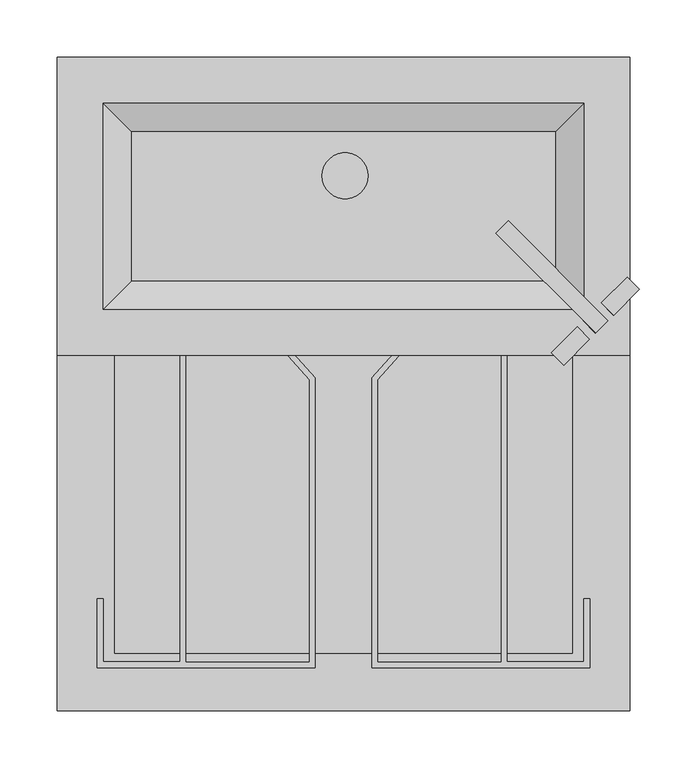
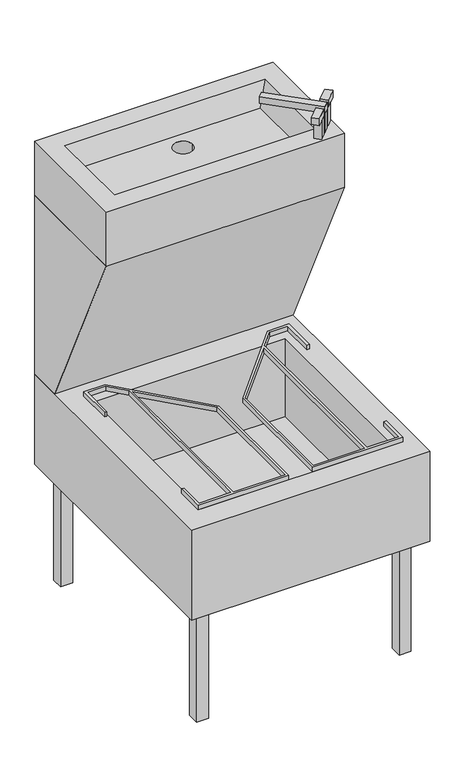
"""IFC4 building model written with IfcOpenShell, lengths in millimetres: proxy geometry, BIMHealth-Janitorial_unit-LOD2A-v1 : BIMHealth-Janitorial_unit-LOD2A-v1."""

from ifc_helpers import new_model, si_unit, frame, origin, origin_with_axes, place, context, project, spatial, polyline, circle_curve, outline, extrude, faceted_brep, source, transform, mapped, element, save
from ifc_brep_helpers import plane_surface, revolved_surface, advanced_brep


def generic_models_3deb86d9(model_context):
    return source(origin(), model_context, "Body", "SolidModel", [
        extrude(outline(polyline([(464.7787729, 323.9595552), (442.1976049, 301.3783872), (431.5029516, 312.0730406), (454.0841195, 334.6542085), (464.7787729, 323.9595552)])), frame((0.0, 0.0, 1009.252851), z_axis=(0.0, 0.0, 1.0), x_axis=(1.0, 0.0, 0.0)), (0.0, 0.0, 1.0), 15.0),
        extrude(outline(polyline([(508.3998272, 367.5806095), (485.8186593, 344.9994415), (475.1240059, 355.6940949), (497.7051739, 378.2752629), (508.3998272, 367.5806095)])), frame((0.0, 0.0, 1009.252851), z_axis=(0.0, 0.0, 1.0), x_axis=(1.0, 0.0, 0.0)), (0.0, 0.0, 1.0), 15.0),
        extrude(outline(polyline([(464.702677, 324.0356511), (454.0960753, 313.4290493), (443.4775178, 324.0476068), (454.0841195, 334.6542085), (464.702677, 324.0356511)])), frame((0.0, 0.0, 966.916304), z_axis=(0.0, 0.0, 1.0), x_axis=(1.0, 0.0, 0.0)), (0.0, 0.0, 1.0), 42.3365471),
        extrude(outline(polyline([(496.3491651, 355.6821391), (485.7425634, 345.0755374), (475.1240059, 355.6940949), (485.7306076, 366.3006966), (496.3491651, 355.6821391)])), frame((0.0, 0.0, 966.916304), z_axis=(0.0, 0.0, 1.0), x_axis=(1.0, 0.0, 0.0)), (0.0, 0.0, 1.0), 42.3365471),
        extrude(outline(polyline([(480.6125796, 339.9455536), (470.0059779, 329.3389519), (459.3874204, 339.9575094), (469.9940221, 350.5641111), (480.6125796, 339.9455536)])), frame((0.0, 0.0, 966.916304), z_axis=(0.0, 0.0, 1.0), x_axis=(1.0, 0.0, 0.0)), (0.0, 0.0, 1.0), 42.3365471),
        extrude(outline(polyline([(480.8723872, 340.0531695), (470.2657855, 329.4465678), (383.147669, 416.5646842), (393.7542707, 427.1712859), (480.8723872, 340.0531695)])), frame((0.0, 0.0, 1009.252851), z_axis=(0.0, 0.0, 1.0), x_axis=(1.0, 0.0, 0.0)), (0.0, 0.0, 1.0), 15.0),
        advanced_brep(
        [(500.0, 570.0, 966.916304), (0.0, 570.0, 966.916304), (0.0, 310.0, 966.916304), (500.0, 310.0, 966.916304), (40.0, 530.0, 966.916304), (460.0, 530.0, 966.916304), (460.0, 350.0, 966.916304), (40.0, 350.0, 966.916304), (500.0, 570.0, 846.916304), (500.0, 310.0, 846.916304), (0.0, 310.0, 846.916304), (0.0, 570.0, 846.916304), (231.371048, 466.6282367, 846.916304), (271.371048, 466.6282367, 846.916304), (435.0, 505.0, 927.1551366), (65.0033958, 505.0, 927.1551366), (65.0033958, 375.0, 927.1551366), (435.0, 375.0, 927.1551366), (271.371048, 466.6282367, 927.1551366), (231.371048, 466.6282367, 927.1551366)],
        [
            (0, 1),
            (1, 2),
            (2, 3),
            (3, 0),
            (4, 5),
            (5, 6),
            (6, 7),
            (7, 4),
            (8, 9),
            (9, 10),
            (10, 11),
            (11, 8),
            (12, 13, circle_curve(frame((251.371048, 466.6282367, 846.916304), z_axis=(0.0, 0.0, 1.0), x_axis=(1.0, 0.0, 0.0)), 20.0)),
            (13, 12, circle_curve(frame((251.371048, 466.6282367, 846.916304), z_axis=(0.0, 0.0, 1.0), x_axis=(1.0, 0.0, 0.0)), 20.0)),
            (0, 8),
            (11, 1),
            (10, 2),
            (9, 3),
            (14, 15),
            (15, 16),
            (16, 17),
            (17, 14),
            (18, 19, circle_curve(frame((251.371048, 466.6282367, 927.1551366), z_axis=(0.0, 0.0, -1.0), x_axis=(1.0, 0.0, 0.0)), 20.0)),
            (19, 18, circle_curve(frame((251.371048, 466.6282367, 927.1551366), z_axis=(0.0, 0.0, -1.0), x_axis=(1.0, 0.0, 0.0)), 20.0)),
            (12, 19),
            (18, 13),
            (14, 5),
            (4, 15),
            (7, 16),
            (6, 17),
        ],
        [
            plane_surface(frame((0.0, 570.0, 966.916304), z_axis=(0.0, 0.0, 1.0), x_axis=(-1.0, 0.0, 0.0))),
            plane_surface(frame((0.0, 570.0, 846.916304), z_axis=(0.0, 0.0, -1.0), x_axis=(1.0, 0.0, 0.0))),
            plane_surface(frame((500.0, 570.0, 966.916304), z_axis=(0.0, 1.0, 0.0), x_axis=(0.0, 0.0, -1.0))),
            plane_surface(frame((0.0, 570.0, 966.916304), z_axis=(-1.0, 0.0, 0.0), x_axis=(0.0, 0.0, -1.0))),
            plane_surface(frame((0.0, 310.0, 966.916304), z_axis=(0.0, -1.0, 0.0), x_axis=(0.0, 0.0, -1.0))),
            plane_surface(frame((500.0, 310.0, 966.916304), z_axis=(1.0, 0.0, 0.0), x_axis=(0.0, 0.0, -1.0))),
            plane_surface(frame((250.0016979, 440.0, 927.1551366), z_axis=(0.0, 0.0, 1.0), x_axis=(-1.0, 0.0, 0.0))),
            revolved_surface(polyline([(271.371048, 466.6282367, 927.1551366), (271.371048, 466.6282367, 846.916304)]), (251.371048, 466.6282367, 846.916304), (0.0, 0.0, 1.0)),
            plane_surface(frame((250.0016979, 505.0, 927.1551366), z_axis=(0.0, -0.8465668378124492, 0.5322824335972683), x_axis=(-1.0, 0.0, 0.0))),
            plane_surface(frame((65.0033958, 440.0, 927.1551366), z_axis=(0.846534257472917, 0.0, 0.5323342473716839), x_axis=(0.0, -1.0, 0.0))),
            plane_surface(frame((250.0016979, 375.0, 927.1551366), z_axis=(0.0, 0.8465668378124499, 0.5322824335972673), x_axis=(1.0, 0.0, 0.0))),
            plane_surface(frame((435.0, 440.0, 927.1551366), z_axis=(-0.8465668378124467, 0.0, 0.5322824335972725), x_axis=(0.0, 1.0, 0.0))),
        ],
        [
            (0, [[1, 2, 3, 4], [5, 6, 7, 8]]),
            (1, [[9, 10, 11, 12], [13, 14]]),
            (2, [[-1, 15, -12, 16]]),
            (3, [[-2, -16, -11, 17]]),
            (4, [[-3, -17, -10, 18]]),
            (5, [[-4, -18, -9, -15]]),
            (6, [[19, 20, 21, 22], [23, 24]]),
            (7, [[25, -23, 26, -13]]),
            (7, [[-25, -14, -26, -24]]),
            (8, [[-19, 27, -5, 28]]),
            (9, [[-20, -28, -8, 29]]),
            (10, [[-21, -29, -7, 30]]),
            (11, [[-22, -30, -6, -27]]),
        ],
    ),
        extrude(outline(polyline([(35.0, 452.5), (80.0, 452.5), (225.0, 290.4411765), (225.0, 37.5), (35.0, 37.5), (35.0, 97.5), (40.0, 97.5), (40.0, 42.5), (107.5, 42.5), (107.5, 414.2661478), (77.764448, 447.5), (40.0, 447.5), (40.0, 377.5), (35.0, 377.5), (35.0, 452.5)]), holes=[polyline([(220.0, 288.5308537), (112.5, 408.6779125), (112.5, 42.5), (220.0, 42.5), (220.0, 288.5308537)])]), frame((0.0, 0.0, 460.0), z_axis=(0.0, 0.0, 1.0), x_axis=(1.0, 0.0, 0.0)), (0.0, 0.0, 1.0), 10.0),
        extrude(outline(polyline([(465.0, 452.5), (465.0, 377.5), (460.0, 377.5), (460.0, 447.5), (422.235552, 447.5), (392.5, 414.2661478), (392.5, 42.5), (460.0, 42.5), (460.0, 97.5), (465.0, 97.5), (465.0, 37.5), (275.0, 37.5), (275.0, 290.4411765), (420.0, 452.5), (465.0, 452.5)]), holes=[polyline([(280.0, 288.5308537), (280.0, 42.5), (387.5, 42.5), (387.5, 408.6779125), (280.0, 288.5308537)])]), frame((0.0, 0.0, 460.0), z_axis=(0.0, 0.0, 1.0), x_axis=(1.0, 0.0, 0.0)), (0.0, 0.0, 1.0), 10.0),
        extrude(outline(polyline([(450.0, 520.0), (450.0, 545.0), (475.0033958, 545.0), (475.0033958, 520.0), (450.0, 520.0)])), origin_with_axes(), (0.0, 0.0, 1.0), 250.0),
        extrude(outline(polyline([(25.0, 520.0), (25.0, 545.0), (50.0033958, 545.0), (50.0033958, 520.0), (25.0, 520.0)])), origin_with_axes(), (0.0, 0.0, 1.0), 250.0),
        faceted_brep([(500.0, 570.0, 450.0), (0.0, 570.0, 450.0), (0.0, 0.0, 450.0), (500.0, 0.0, 450.0), (50.0033958, 440.0, 450.0), (450.0, 440.0, 450.0), (450.0, 50.0, 450.0), (50.0033958, 50.0, 450.0), (500.0, 570.0, 250.0), (500.0, 0.0, 250.0), (0.0, 0.0, 250.0), (0.0, 570.0, 250.0), (450.0, 440.0, 277.194967), (50.0033958, 440.0, 277.194967), (50.0033958, 50.0, 277.194967), (450.0, 50.0, 277.194967)], [[[0, 1, 2, 3], [4, 5, 6, 7]], [[8, 9, 10, 11]], [[1, 0, 8, 11]], [[2, 1, 11, 10]], [[3, 2, 10, 9]], [[0, 3, 9, 8]], [[12, 13, 14, 15]], [[13, 12, 5, 4]], [[14, 13, 4, 7]], [[15, 14, 7, 6]], [[12, 15, 6, 5]]]),
        extrude(outline(polyline([(450.0, 25.0), (450.0, 50.0), (475.0033958, 50.0), (475.0033958, 25.0), (450.0, 25.0)])), origin_with_axes(), (0.0, 0.0, 1.0), 250.0),
        extrude(outline(polyline([(25.0, 25.0), (25.0, 50.0), (50.0033958, 50.0), (50.0033958, 25.0), (25.0, 25.0)])), origin_with_axes(), (0.0, 0.0, 1.0), 250.0),
        extrude(outline(polyline([(570.0, 846.916304), (570.0, 450.0), (497.5067026, 450.0), (310.0, 846.916304), (570.0, 846.916304)])), frame((0.0, 0.0, 0.0), z_axis=(1.0, 0.0, 0.0), x_axis=(0.0, 1.0, 0.0)), (0.0, 0.0, 1.0), 500.0),
    ])


if __name__ == "__main__":
    model = new_model("IFC4")
    model_context = context("Model", 3, world=origin())
    ifc_project = project(units=[si_unit("LENGTHUNIT", "METRE", prefix="MILLI")], contexts=[model_context])
    site = spatial("IfcSite", under=ifc_project)
    building = spatial("IfcBuilding", under=site)
    placement = place(None, origin())
    generic_models_shape = generic_models_3deb86d9(model_context)
    element("IfcBuildingElementProxy", 1, Name="BIMHealth-Janitorial_unit-LOD2A-v1 : BIMHealth-Janitorial_unit-LOD2A-v1", ObjectType="BIMHealth-Janitorial_unit-LOD2A-v1 : BIMHealth-Janitorial_unit-LOD2A-v1", at=placement, inside=building, context=model_context, shape_type="MappedRepresentation", body=[
        mapped(generic_models_shape, transform((0.0, 0.0, 0.0), x_axis=(1.0, 0.0, 0.0), y_axis=(0.0, 1.0, 0.0), z_axis=(0.0, 0.0, 1.0))),
    ])
    save(model, "model.ifc")
